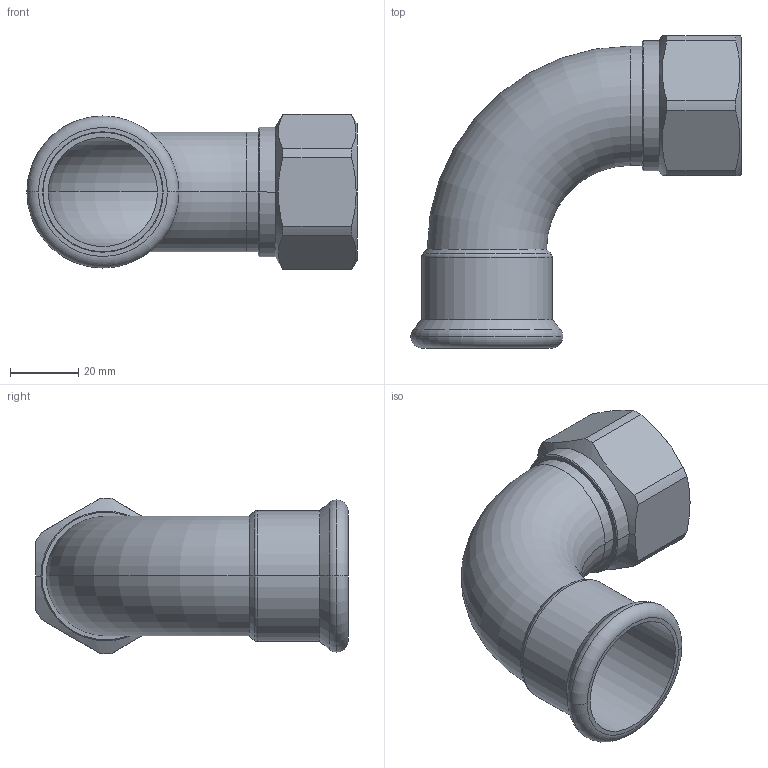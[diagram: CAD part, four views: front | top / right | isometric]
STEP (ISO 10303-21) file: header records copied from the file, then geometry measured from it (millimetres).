
FILE_DESCRIPTION(('CoCreate Modeling STEP Export'),'2;1');
FILE_NAME('C1438 35xRp1-2.stp','2014-11-12T16:38:43',(''),(''),'CoCreate Modeling STEP processor for AP214 (Solid Model)','CoCreate Modeling 17.00A 17-Jun-2010 (C) Parametric Technology GmbH','');
FILE_SCHEMA(('AUTOMOTIVE_DESIGN { 1 0 10303 214 1 1 1 1 }'));
Length unit declared in the file: millimetre
Products named in the file (2): C1438_35xRp1-2
Assembly tree (1 placements, depth 2):
  C1438_35xRp1-2
    C1438_35xRp1-2
Bounding box: 96.78 x 91.5 x 45.69 mm (x, y, z)
Volume: 46308.7 mm3; surface area: 30307.3 mm2
Topology: 1 solids, 1 shells, 59 faces, 133 edges, 81 vertices
Faces by surface type: cylinder 22, cone 14, plane 13, torus 10
Entity records: 2304 total; most frequent: CARTESIAN_POINT 1132, ORIENTED_EDGE 266, DIRECTION 192, EDGE_CURVE 133, VERTEX_POINT 81, AXIS2_PLACEMENT_3D 75, EDGE_LOOP 66, FACE_OUTER_BOUND 59
